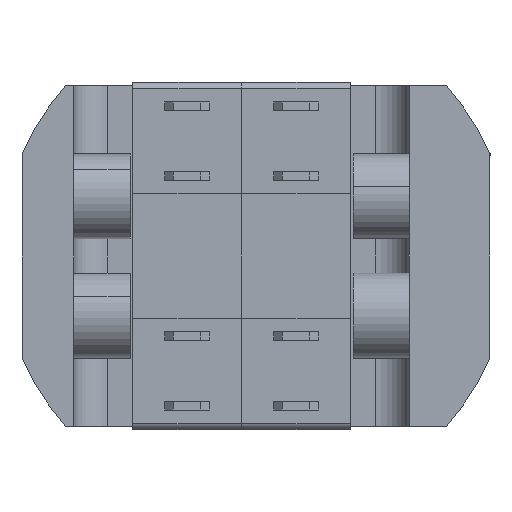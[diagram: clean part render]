
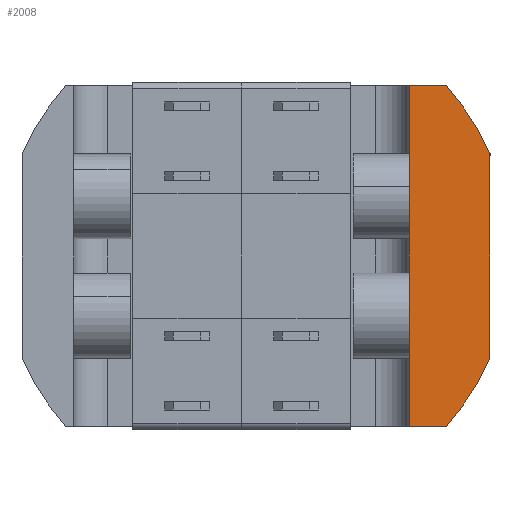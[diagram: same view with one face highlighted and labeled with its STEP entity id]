
A CAD part, front view. The second image highlights one B-rep face of the part: STEP entity #2008.
In plain terms, the highlighted planar face has unit normal (0, -1, 0).
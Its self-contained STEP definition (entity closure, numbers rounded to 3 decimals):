
#124 = ORIENTED_EDGE ( 'NONE', *, *, #2242, .F. ) ;
#160 = ORIENTED_EDGE ( 'NONE', *, *, #3958, .F. ) ;
#470 = CARTESIAN_POINT ( 'NONE',  ( 13.75, -22.5, -5.995 ) ) ;
#521 = ORIENTED_EDGE ( 'NONE', *, *, #3875, .F. ) ;
#739 = EDGE_CURVE ( 'NONE', #4070, #5312, #5609, .T. ) ;
#788 = CIRCLE ( 'NONE', #3964, 15. ) ;
#896 = PLANE ( 'NONE',  #1065 ) ;
#919 = DIRECTION ( 'NONE',  ( 0., 0., 1. ) ) ;
#944 = LINE ( 'NONE', #5228, #6240 ) ;
#945 = VERTEX_POINT ( 'NONE', #470 ) ;
#993 = ORIENTED_EDGE ( 'NONE', *, *, #739, .F. ) ;
#1065 = AXIS2_PLACEMENT_3D ( 'NONE', #4491, #2996, #919 ) ;
#1093 = VECTOR ( 'NONE', #2260, 1000. ) ;
#1172 = DIRECTION ( 'NONE',  ( -1., 0., 0. ) ) ;
#1485 = DIRECTION ( 'NONE',  ( 0., 0., -1. ) ) ;
#1538 = AXIS2_PLACEMENT_3D ( 'NONE', #5450, #6580, #3459 ) ;
#1888 = VECTOR ( 'NONE', #1485, 1000. ) ;
#2008 = ADVANCED_FACE ( 'NONE', ( #5330 ), #896, .F. ) ;
#2178 = CARTESIAN_POINT ( 'NONE',  ( 13.75, -22.5, 5.995 ) ) ;
#2242 = EDGE_CURVE ( 'NONE', #5400, #4070, #4420, .T. ) ;
#2260 = DIRECTION ( 'NONE',  ( 0., 0., 1. ) ) ;
#2441 = LINE ( 'NONE', #4769, #1093 ) ;
#2996 = DIRECTION ( 'NONE',  ( 0., 1., 0. ) ) ;
#3377 = VECTOR ( 'NONE', #3787, 1000. ) ;
#3459 = DIRECTION ( 'NONE',  ( 0., 0., 1. ) ) ;
#3528 = CARTESIAN_POINT ( 'NONE',  ( -11.18, -22.5, 10. ) ) ;
#3787 = DIRECTION ( 'NONE',  ( 1., 0., 0. ) ) ;
#3845 = CARTESIAN_POINT ( 'NONE',  ( 11.18, -22.5, -10. ) ) ;
#3875 = EDGE_CURVE ( 'NONE', #4172, #5711, #944, .T. ) ;
#3885 = LINE ( 'NONE', #4616, #1888 ) ;
#3958 = EDGE_CURVE ( 'NONE', #945, #4172, #788, .T. ) ;
#3964 = AXIS2_PLACEMENT_3D ( 'NONE', #6308, #6395, #5370 ) ;
#4027 = EDGE_CURVE ( 'NONE', #5711, #5400, #2441, .T. ) ;
#4070 = VERTEX_POINT ( 'NONE', #4235 ) ;
#4172 = VERTEX_POINT ( 'NONE', #3845 ) ;
#4232 = ORIENTED_EDGE ( 'NONE', *, *, #4027, .F. ) ;
#4235 = CARTESIAN_POINT ( 'NONE',  ( 11.18, -22.5, 10. ) ) ;
#4420 = LINE ( 'NONE', #3528, #3377 ) ;
#4491 = CARTESIAN_POINT ( 'NONE',  ( 0., -22.5, 0. ) ) ;
#4616 = CARTESIAN_POINT ( 'NONE',  ( 13.75, -22.5, 5.995 ) ) ;
#4769 = CARTESIAN_POINT ( 'NONE',  ( 9., -22.5, -34.168 ) ) ;
#5228 = CARTESIAN_POINT ( 'NONE',  ( -11.18, -22.5, -10. ) ) ;
#5312 = VERTEX_POINT ( 'NONE', #2178 ) ;
#5319 = CARTESIAN_POINT ( 'NONE',  ( 9., -22.5, 10. ) ) ;
#5330 = FACE_OUTER_BOUND ( 'NONE', #5460, .T. ) ;
#5370 = DIRECTION ( 'NONE',  ( 0., 0., 1. ) ) ;
#5400 = VERTEX_POINT ( 'NONE', #5319 ) ;
#5450 = CARTESIAN_POINT ( 'NONE',  ( 0., -22.5, 0. ) ) ;
#5460 = EDGE_LOOP ( 'NONE', ( #124, #4232, #521, #160, #5852, #993 ) ) ;
#5566 = CARTESIAN_POINT ( 'NONE',  ( 9., -22.5, -10. ) ) ;
#5609 = CIRCLE ( 'NONE', #1538, 15. ) ;
#5710 = EDGE_CURVE ( 'NONE', #5312, #945, #3885, .T. ) ;
#5711 = VERTEX_POINT ( 'NONE', #5566 ) ;
#5852 = ORIENTED_EDGE ( 'NONE', *, *, #5710, .F. ) ;
#6240 = VECTOR ( 'NONE', #1172, 1000. ) ;
#6308 = CARTESIAN_POINT ( 'NONE',  ( 0., -22.5, 0. ) ) ;
#6395 = DIRECTION ( 'NONE',  ( 0., 1., 0. ) ) ;
#6580 = DIRECTION ( 'NONE',  ( 0., 1., 0. ) ) ;
